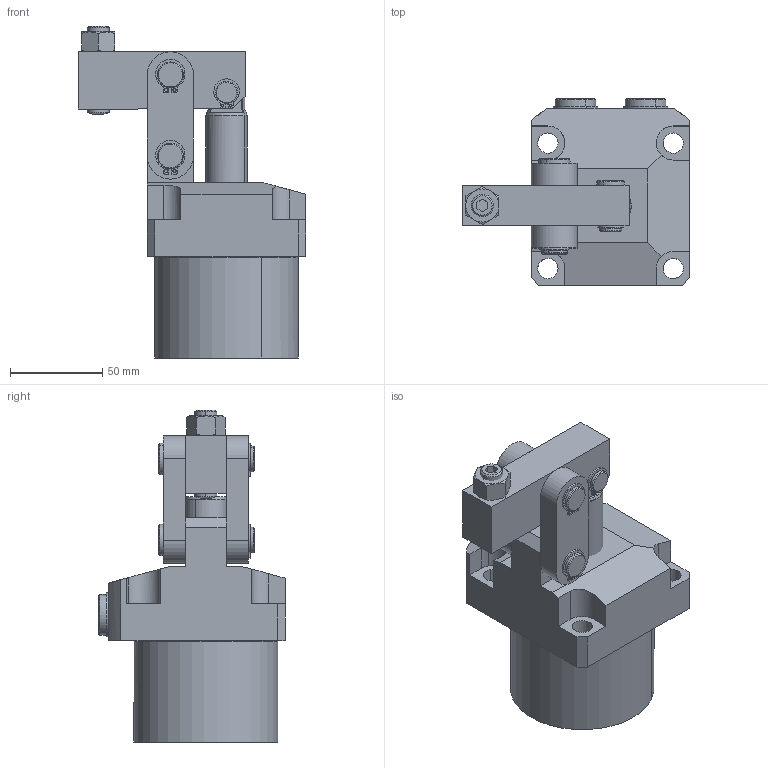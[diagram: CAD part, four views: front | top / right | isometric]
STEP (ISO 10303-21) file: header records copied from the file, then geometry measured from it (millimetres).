
FILE_DESCRIPTION(('CATIA V5 STEP Exchange'),'2;1');
FILE_NAME('\\Kjf-102\kjf_tc\Hydraulic_Clamp\Standard\HINGE_CLAMP\New_Hinge-Clamp\HGC-5636G\배포도면\CHGC-5678G-RH-L.stp','2017-09-15T04:39:25+00:00',('none'),('none'),'CATIA Version 5 Release 19 SP 6 (IN-10)','CATIA V5 STEP AP214','none');
FILE_SCHEMA(('AUTOMOTIVE_DESIGN { 1 0 10303 214 1 1 1 1 }'));
Length unit declared in the file: millimetre
Products named in the file (1): CHGC-5678G-RH-L
Bounding box: 123.5 x 101 x 180 mm (x, y, z)
Volume: 580244.3 mm3; surface area: 108196.1 mm2
Topology: 15 solids, 16 shells, 370 faces, 896 edges, 578 vertices
Faces by surface type: cylinder 152, plane 143, cone 65, torus 6, sphere 4
Entity records: 11197 total; most frequent: CARTESIAN_POINT 2643, ORIENTED_EDGE 1784, DIRECTION 1496, EDGE_CURVE 892, AXIS2_PLACEMENT_3D 705, VERTEX_POINT 578, VECTOR 450, LINE 450
